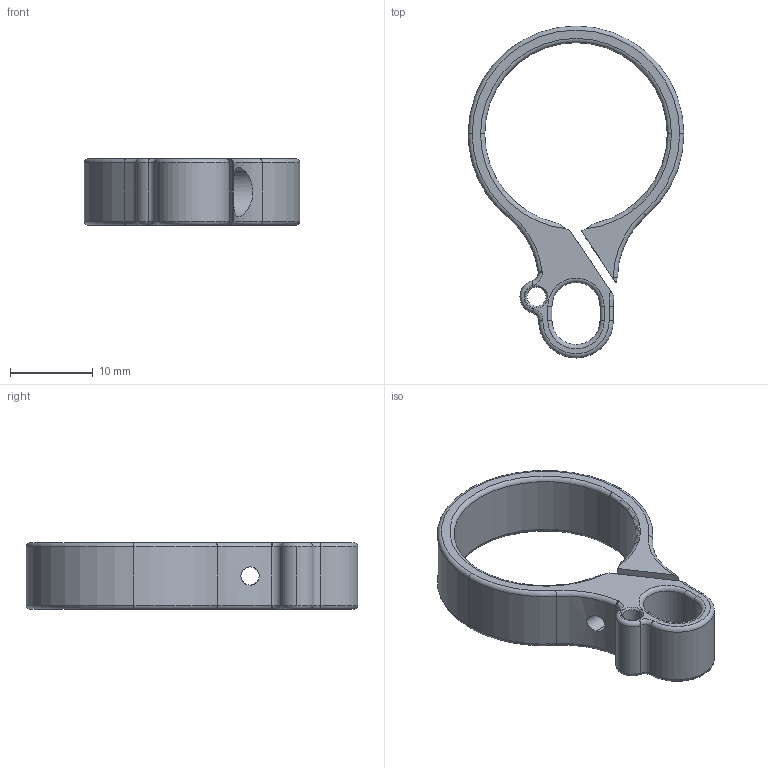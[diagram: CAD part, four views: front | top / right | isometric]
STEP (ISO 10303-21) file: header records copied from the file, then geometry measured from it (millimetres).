
FILE_DESCRIPTION (( 'STEP AP203' ), '1' );
FILE_NAME ('1280444.STEP', '2021-03-02T19:58:36', ( 'Chris' ), ( 'Big Sky CNC' ), 'SwSTEP 2.0', 'SolidWorks 2012', '' );
FILE_SCHEMA (( 'CONFIG_CONTROL_DESIGN' ));
Length unit declared in the file: millimetre
Products named in the file (1): 1280444
Bounding box: 26 x 40 x 8 mm (x, y, z)
Volume: 1809.3 mm3; surface area: 2209.3 mm2
Topology: 1 solids, 1 shells, 84 faces, 205 edges, 124 vertices
Faces by surface type: cylinder 36, torus 34, plane 8, cone 6
Entity records: 2718 total; most frequent: CARTESIAN_POINT 614, DIRECTION 470, ORIENTED_EDGE 410, AXIS2_PLACEMENT_3D 208, EDGE_CURVE 205, VERTEX_POINT 124, CIRCLE 123, EDGE_LOOP 93
